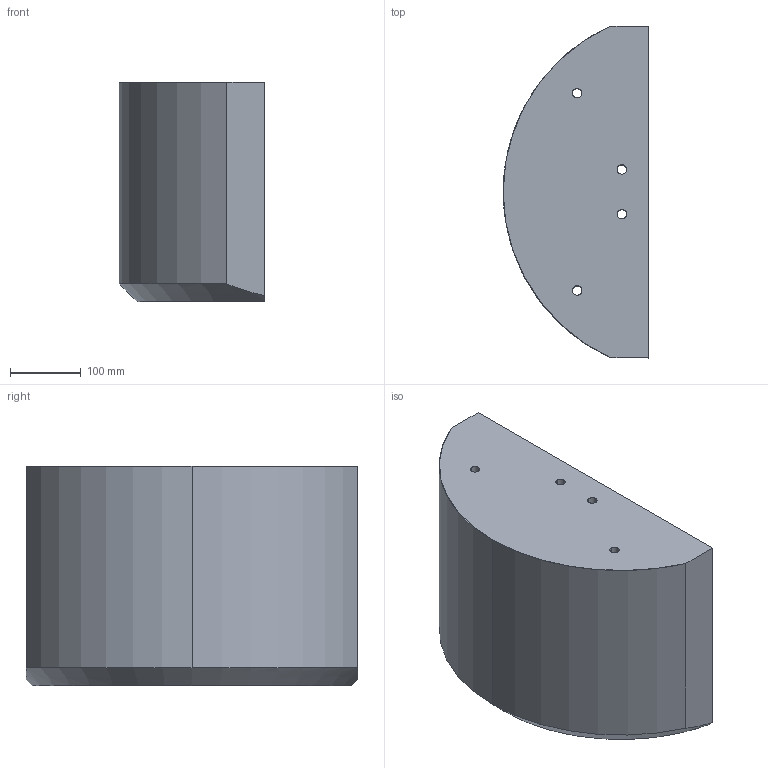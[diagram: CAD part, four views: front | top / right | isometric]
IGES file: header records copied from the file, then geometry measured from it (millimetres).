
Start section: SolidWorks IGES FILE using analytic representation for surfaces
Global section: file name: C:\Dorado\Drawings\ExtendedBatteryMidbody\Drawings\ExtMidbodyFoamEnd.IGS; native system: SolidWorks 2003 by SolidWorks Corporation; preprocessor: Version 5.3; author: gashler; date: 030401.134202; units: inch
Bounding box: 206.38 x 469.9 x 311.15 mm (x, y, z)
Surface area: 563064.2 mm2 (no closed solid volume)
Topology: 0 solids, 0 shells, 28 faces, 813 edges, 813 vertices
Faces by surface type: revolution 19, bspline 9
